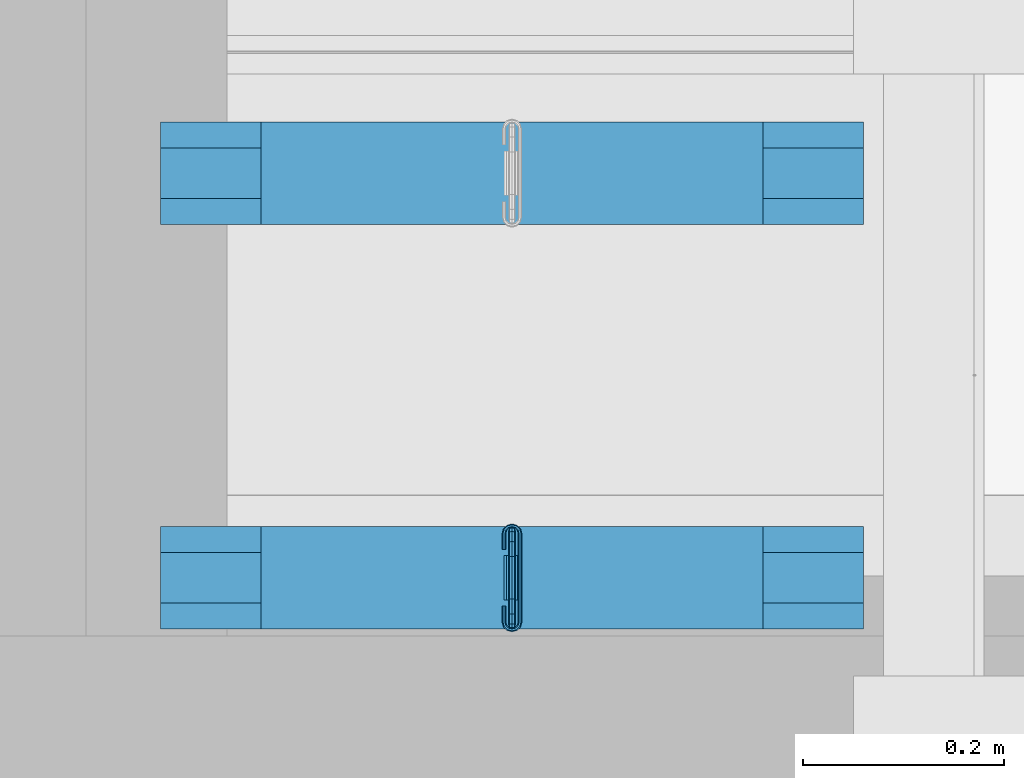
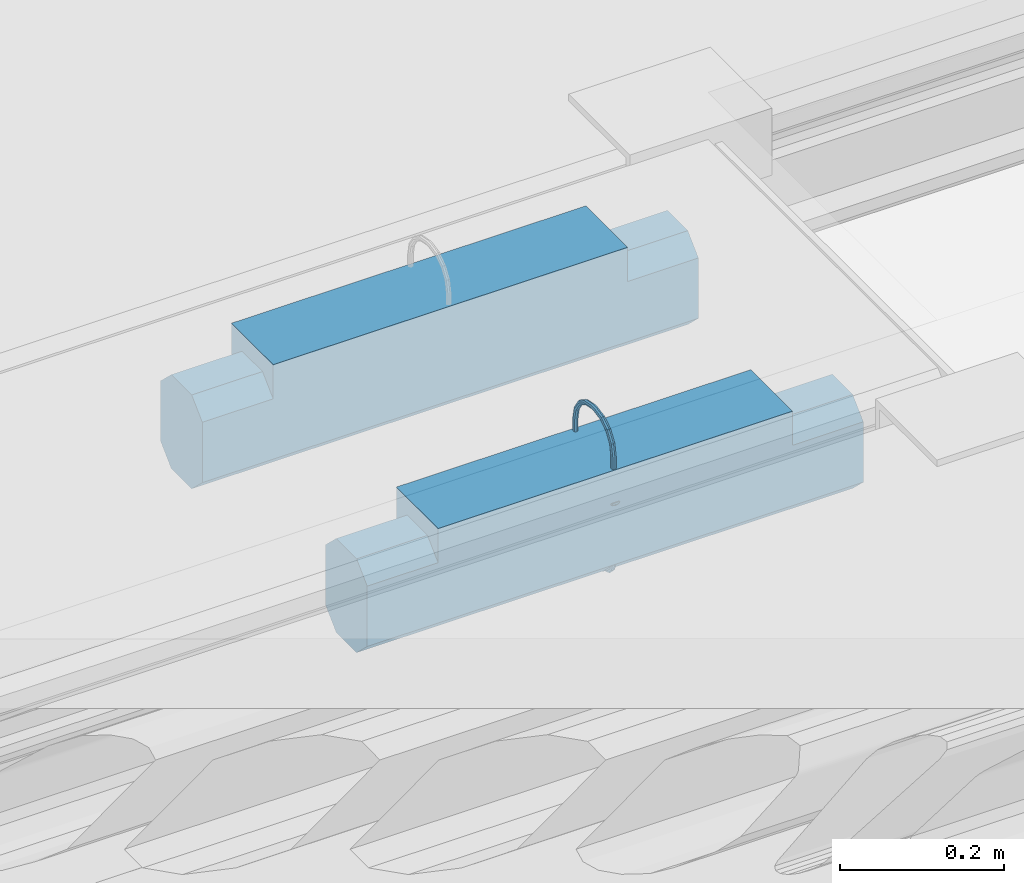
# One storey, part 178 of 230: 3 beams.
"""IFC4X3_ADD2 building model written with IfcOpenShell, lengths in millimetres."""

from ifc_helpers import new_model, si_unit, direction, origin_with_axes, place, context, subcontext, project, spatial, triangles, polygons, element, save


model = new_model("IFC4X3_ADD2")

# Units and contexts
model_context = context("Model", 3, precision=1e-05, world=origin_with_axes(), true_north=direction((0.0, 1.0)))
body_context = subcontext(model_context, "Body", "Model", "MODEL_VIEW")
ifc_project = project(units=[si_unit("LENGTHUNIT", "METRE", prefix="MILLI"), si_unit("AREAUNIT", "SQUARE_METRE"), si_unit("VOLUMEUNIT", "CUBIC_METRE"), si_unit("PLANEANGLEUNIT", "RADIAN"), si_unit("TIMEUNIT", "SECOND"), si_unit("MASSUNIT", "GRAM")], contexts=[model_context])

# Site, building, storey
site_placement = place(None, origin_with_axes())
site = spatial("IfcSite", under=ifc_project, at=site_placement, Name="Site", CompositionType="ELEMENT")
building_placement = place(site_placement, origin_with_axes())
building = spatial("IfcBuilding", under=site, at=building_placement, Name="IFC Building Story")
storey_placement = place(building_placement, origin_with_axes())
storey = spatial("IfcBuildingStorey", under=building, at=storey_placement, Name="ETAGE 00 (0)", Elevation=0.0)

# Beams
beam_1_placement = place(storey_placement, origin_with_axes())
element("IfcBeam", 1, at=beam_1_placement, inside=storey, Name="ES44", ObjectType="500*102", context=body_context, shape_type="Tessellation", body=[
    polygons([(42116.18900000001, 509.0000185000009, 4199.9999879), (42116.18900000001, 407.000018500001, 4199.9999879), (42616.18900000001, 407.000018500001, 4199.9999879), (42616.18900000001, 509.0000185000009, 4199.9999879), (42116.18900000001, 509.0000185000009, 4148.9999909), (42116.18900000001, 483.000018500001, 4173.9999909), (42116.18900000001, 433.000018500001, 4173.9999909), (42116.18900000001, 407.000018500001, 4148.9999909), (42016.18900000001, 407.000018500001, 4148.9999909), (42016.18900000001, 407.000018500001, 4058.999990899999), (42716.18900000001, 407.000018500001, 4058.999990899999), (42716.18900000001, 407.000018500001, 4148.9999909), (42616.18900000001, 407.000018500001, 4148.9999909), (42616.18900000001, 433.000018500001, 4173.9999909), (42616.18900000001, 483.0000185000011, 4173.9999909), (42616.18900000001, 509.0000185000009, 4148.9999909), (42716.18900000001, 509.0000185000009, 4148.9999909), (42716.18900000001, 509.0000185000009, 4058.999990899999), (42016.18900000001, 509.0000185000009, 4058.999990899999), (42016.18900000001, 509.0000185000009, 4148.9999909), (42016.18900000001, 483.000018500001, 4033.9999909), (42016.18900000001, 433.000018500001, 4033.9999909), (42016.18900000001, 433.000018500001, 4173.9999909), (42016.18900000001, 483.000018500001, 4173.9999909), (42716.18900000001, 483.000018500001, 4033.9999909), (42716.18900000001, 483.000018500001, 4173.9999909), (42716.18900000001, 433.000018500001, 4173.9999909), (42716.18900000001, 433.000018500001, 4033.9999909)], [[[1, 2, 3, 4]], [[7, 8, 2]], [[2, 1, 6]], [[2, 6, 7]], [[1, 5, 6]], [[8, 9, 10]], [[13, 3, 2]], [[8, 10, 11]], [[8, 11, 13]], [[13, 2, 8]], [[11, 12, 13]], [[15, 16, 4]], [[4, 3, 14]], [[4, 14, 15]], [[3, 13, 14]], [[16, 17, 18]], [[5, 1, 4]], [[16, 18, 19]], [[16, 19, 5]], [[5, 4, 16]], [[19, 20, 5]], [[21, 22, 10]], [[21, 10, 9]], [[21, 9, 23]], [[21, 23, 24]], [[21, 24, 20]], [[21, 20, 19]], [[25, 18, 17]], [[25, 17, 26]], [[25, 26, 27]], [[25, 27, 12]], [[25, 12, 11]], [[25, 11, 28]], [[22, 21, 25, 28]], [[10, 22, 28, 11]], [[23, 9, 8, 7]], [[24, 23, 7, 6]], [[20, 24, 6, 5]], [[21, 19, 18, 25]], [[26, 17, 16, 15]], [[27, 26, 15, 14]], [[12, 27, 14, 13]]]),
])
beam_2_placement = place(storey_placement, origin_with_axes())
element("IfcBeam", 2, at=beam_2_placement, inside=storey, Name="LU2", ObjectType="D7", context=body_context, shape_type="Tessellation", body=[
    triangles([(42368.66502685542, 483.5000298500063, 4036.025157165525), (42368.66502685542, 480.0000254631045, 4036.025157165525), (42366.19075927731, 483.5000298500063, 4034.999929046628), (42366.19075927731, 480.0000254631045, 4034.999929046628), (42369.6882202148, 483.5000298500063, 4038.500006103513), (42369.6882202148, 480.0000254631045, 4038.500006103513), (42368.66502685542, 480.0000254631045, 4040.974855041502), (42368.66502685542, 483.5000298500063, 4040.974855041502), (42366.19075927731, 480.0000254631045, 4042.000083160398), (42366.19075927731, 483.5000298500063, 4042.000083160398), (42363.71184082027, 480.0000254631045, 4040.974855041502), (42363.71184082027, 483.5000298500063, 4040.974855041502), (42362.6886474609, 480.0000254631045, 4038.500006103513), (42362.6886474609, 483.5000298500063, 4038.500006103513), (42363.71184082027, 483.5000298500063, 4036.025157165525), (42363.71184082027, 480.0000254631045, 4036.025157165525), (42366.19075927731, 495.7500088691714, 4038.282286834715), (42363.71184082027, 495.2374674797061, 4039.170023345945), (42366.19075927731, 504.71763010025, 4047.250053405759), (42363.71184082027, 503.8298572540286, 4047.762522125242), (42368.66502685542, 503.8298572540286, 4047.762522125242), (42368.66502685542, 495.2374674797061, 4039.170023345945), (42369.6882202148, 501.6865651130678, 4048.999946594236), (42369.6882202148, 494.0000066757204, 4041.313497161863), (42368.66502685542, 492.7625822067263, 4043.456680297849), (42368.66502685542, 499.5432366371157, 4050.237371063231), (42366.19075927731, 492.2500044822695, 4044.34441680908), (42366.19075927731, 498.6554637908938, 4050.750130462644), (42363.71184082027, 499.5432366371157, 4050.237371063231), (42363.71184082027, 492.7625822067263, 4043.456680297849), (42362.6886474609, 501.6865651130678, 4048.999946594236), (42362.6886474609, 494.0000066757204, 4041.313497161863), (42363.71184082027, 506.974905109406, 4059.499887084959), (42362.6886474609, 504.500019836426, 4059.499887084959), (42366.19075927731, 508.000024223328, 4059.499887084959), (42368.66502685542, 506.974905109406, 4059.499887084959), (42369.6882202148, 504.500019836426, 4059.499887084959), (42368.66502685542, 502.0251345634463, 4059.499887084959), (42366.19075927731, 501.0000154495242, 4059.499887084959), (42363.71184082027, 502.0251345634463, 4059.499887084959), (42363.71184082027, 502.0251345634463, 4218.50006561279), (42362.6886474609, 504.500019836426, 4218.50006561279), (42363.71184082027, 498.9403664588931, 4234.008421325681), (42362.6886474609, 501.2268548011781, 4234.955456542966), (42363.71184082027, 490.1556192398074, 4247.155583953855), (42362.6886474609, 491.9056214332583, 4248.905477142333), (42363.71184082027, 493.6556236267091, 4250.65566101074), (42363.71184082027, 503.5133068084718, 4235.902491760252), (42366.19075927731, 494.3804703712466, 4251.38032608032), (42366.19075927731, 504.46041469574, 4236.294909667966), (42368.66502685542, 493.6556236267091, 4250.65566101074), (42368.66502685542, 503.5133068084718, 4235.902491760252), (42369.6882202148, 491.9056214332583, 4248.905477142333), (42369.6882202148, 501.2268548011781, 4234.955456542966), (42368.66502685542, 498.9403664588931, 4234.008421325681), (42368.66502685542, 490.1556192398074, 4247.155583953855), (42366.19075927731, 497.993258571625, 4233.616003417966), (42366.19075927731, 489.4307361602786, 4246.430628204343), (42366.19075927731, 476.6160023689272, 4254.993186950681), (42363.71184082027, 477.0083112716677, 4255.940222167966), (42362.6886474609, 477.9554191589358, 4258.226710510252), (42363.71184082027, 478.9024907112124, 4260.513198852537), (42366.19075927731, 479.2947996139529, 4261.460524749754), (42368.66502685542, 478.9024907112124, 4260.513198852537), (42369.6882202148, 477.9554191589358, 4258.226710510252), (42368.66502685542, 477.0083112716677, 4255.940222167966), (42368.66502685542, 461.50002822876, 4259.025208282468), (42366.19075927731, 461.50002822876, 4257.999980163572), (42363.71184082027, 461.50002822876, 4259.025208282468), (42362.6886474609, 461.50002822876, 4261.500057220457), (42363.71184082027, 461.50002822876, 4263.974906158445), (42366.19075927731, 461.50002822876, 4265.000134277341), (42368.66502685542, 461.50002822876, 4263.974906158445), (42369.6882202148, 461.50002822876, 4261.500057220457), (42369.6882202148, 454.5000194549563, 4261.500057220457), (42368.66502685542, 454.5000194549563, 4259.025208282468), (42369.6882202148, 438.0446285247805, 4258.226710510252), (42368.66502685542, 438.9917364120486, 4255.940222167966), (42369.6882202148, 424.094426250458, 4248.905477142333), (42368.66502685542, 425.8444284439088, 4247.155583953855), (42366.19075927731, 439.3840089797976, 4254.993186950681), (42366.19075927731, 426.5693115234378, 4246.430628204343), (42363.71184082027, 425.8444284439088, 4247.155583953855), (42363.71184082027, 438.9917364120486, 4255.940222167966), (42362.6886474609, 424.094426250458, 4248.905477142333), (42362.6886474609, 438.0446285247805, 4258.226710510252), (42363.71184082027, 422.344424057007, 4250.65566101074), (42363.71184082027, 437.0975206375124, 4260.513198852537), (42366.19075927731, 421.6195409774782, 4251.38032608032), (42366.19075927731, 436.7052480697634, 4261.460524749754), (42368.66502685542, 422.344424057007, 4250.65566101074), (42368.66502685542, 437.0975206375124, 4260.513198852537), (42369.6882202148, 414.7731928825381, 4234.955456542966), (42368.66502685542, 412.486704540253, 4235.902491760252), (42368.66502685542, 417.0596812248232, 4234.008421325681), (42366.19075927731, 418.0067891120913, 4233.616003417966), (42363.71184082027, 417.0596812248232, 4234.008421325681), (42362.6886474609, 414.7731928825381, 4234.955456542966), (42363.71184082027, 412.486704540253, 4235.902491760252), (42366.19075927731, 411.5396329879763, 4236.294909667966), (42368.66502685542, 409.0251425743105, 4218.50006561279), (42366.19075927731, 408.0000234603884, 4218.50006561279), (42369.6882202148, 411.5000278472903, 4218.50006561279), (42368.66502685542, 413.9748767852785, 4218.50006561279), (42366.19075927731, 415.0000322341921, 4218.50006561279), (42363.71184082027, 413.9748767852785, 4218.50006561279), (42362.6886474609, 411.5000278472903, 4218.50006561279), (42363.71184082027, 409.0251425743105, 4218.50006561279), (42366.19075927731, 408.0000234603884, 4059.499887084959), (42363.71184082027, 409.0251425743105, 4059.499887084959), (42366.19075927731, 411.2823812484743, 4047.250053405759), (42363.71184082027, 412.1701904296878, 4047.762522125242), (42366.19075927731, 420.2500024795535, 4038.282286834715), (42363.71184082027, 420.7625802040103, 4039.170023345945), (42368.66502685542, 420.7625802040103, 4039.170023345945), (42368.66502685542, 412.1701904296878, 4047.762522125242), (42369.6882202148, 422.0000046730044, 4041.313497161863), (42369.6882202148, 414.3134825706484, 4048.999946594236), (42368.66502685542, 416.4567747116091, 4050.237371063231), (42368.66502685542, 423.2374654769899, 4043.456680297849), (42366.19075927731, 417.3445838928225, 4050.750130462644), (42366.19075927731, 423.7500068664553, 4044.34441680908), (42363.71184082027, 423.2374654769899, 4043.456680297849), (42363.71184082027, 416.4567747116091, 4050.237371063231), (42362.6886474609, 422.0000046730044, 4041.313497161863), (42362.6886474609, 414.3134825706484, 4048.999946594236), (42363.71184082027, 432.50001783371, 4036.025157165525), (42362.6886474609, 432.50001783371, 4038.500006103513), (42366.19075927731, 432.50001783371, 4034.999929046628), (42368.66502685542, 432.50001783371, 4036.025157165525), (42369.6882202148, 432.50001783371, 4038.500006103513), (42368.66502685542, 432.50001783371, 4040.974855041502), (42366.19075927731, 432.50001783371, 4042.000083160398), (42363.71184082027, 432.50001783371, 4040.974855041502), (42363.71184082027, 436.0000222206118, 4040.974855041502), (42362.6886474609, 436.0000222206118, 4038.500006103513), (42366.19075927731, 436.0000222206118, 4042.000083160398), (42368.66502685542, 436.0000222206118, 4040.974855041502), (42369.6882202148, 436.0000222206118, 4038.500006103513), (42368.66502685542, 436.0000222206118, 4036.025157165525), (42366.19075927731, 436.0000222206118, 4034.999929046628), (42363.71184082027, 436.0000222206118, 4036.025157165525), (42374.19027099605, 436.0000222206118, 4038.500006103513), (42366.19075927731, 436.0000222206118, 4046.500099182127), (42360.53063964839, 436.0000222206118, 4044.156928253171), (42358.19124755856, 436.0000222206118, 4038.500006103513), (42371.84622802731, 436.0000222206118, 4044.156928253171), (42360.53063964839, 436.0000222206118, 4032.843083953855), (42366.19075927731, 436.0000222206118, 4030.4999130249), (42371.84622802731, 436.0000222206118, 4032.843083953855), (42371.84622802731, 480.0000254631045, 4032.843083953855), (42366.19075927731, 480.0000254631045, 4030.4999130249), (42374.19027099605, 480.0000254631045, 4038.500006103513), (42371.84622802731, 480.0000254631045, 4044.156928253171), (42366.19075927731, 480.0000254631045, 4046.500099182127), (42360.53063964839, 480.0000254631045, 4044.156928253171), (42358.19124755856, 480.0000254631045, 4038.500006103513), (42360.53063964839, 480.0000254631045, 4032.843083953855), (42362.6886474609, 411.5000278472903, 4059.499887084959), (42363.71184082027, 413.9748767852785, 4059.499887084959), (42366.19075927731, 415.0000322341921, 4059.499887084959), (42368.66502685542, 413.9748767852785, 4059.499887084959), (42369.6882202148, 411.5000278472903, 4059.499887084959), (42368.66502685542, 409.0251425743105, 4059.499887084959), (42368.66502685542, 454.5000194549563, 4263.974906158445), (42366.19075927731, 454.5000194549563, 4265.000134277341), (42363.71184082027, 454.5000194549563, 4263.974906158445), (42362.6886474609, 454.5000194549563, 4261.500057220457), (42363.71184082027, 454.5000194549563, 4259.025208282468), (42366.19075927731, 454.5000194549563, 4257.999980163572), (42366.19075927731, 501.0000154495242, 4218.50006561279), (42368.66502685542, 502.0251345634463, 4218.50006561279), (42369.6882202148, 504.500019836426, 4218.50006561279), (42368.66502685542, 506.974905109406, 4218.50006561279), (42366.19075927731, 508.000024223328, 4218.50006561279), (42363.71184082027, 506.974905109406, 4218.50006561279), (42360.08880615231, 502.0600161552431, 4149.999886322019), (42360.08880615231, 486.0000226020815, 4149.999886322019), (42359.14002685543, 502.0600161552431, 4148.354637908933), (42359.14002685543, 486.0000226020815, 4148.354637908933), (42360.88410644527, 505.03000202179, 4149.999886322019), (42360.06090087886, 505.505009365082, 4148.354637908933), (42362.58167724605, 508.026948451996, 4148.354637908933), (42363.0607177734, 507.2042152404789, 4149.999886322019), (42362.58167724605, 508.026948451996, 4151.645425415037), (42360.06090087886, 505.505009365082, 4151.645425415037), (42366.02797851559, 508.950002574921, 4151.645425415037), (42366.02797851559, 510.85003194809, 4151.645425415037), (42361.63289794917, 509.6723785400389, 4151.645425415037), (42357.23781738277, 413.9400315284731, 4151.645425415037), (42360.06090087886, 410.4950019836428, 4151.645425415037), (42359.14002685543, 413.9400315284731, 4151.645425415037), (42357.23781738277, 430.0000250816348, 4151.645425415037), (42358.41448974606, 409.5450236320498, 4151.645425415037), (42359.14002685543, 430.0000250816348, 4151.645425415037), (42361.63289794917, 406.327669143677, 4151.645425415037), (42366.02797851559, 407.0500087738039, 4151.645425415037), (42362.58167724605, 407.9730992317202, 4151.645425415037), (42366.02797851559, 405.1500157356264, 4151.645425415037), (42357.23781738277, 502.0600161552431, 4151.645425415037), (42358.41448974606, 506.455024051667, 4151.645425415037), (42357.23781738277, 486.0000226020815, 4151.645425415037), (42359.14002685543, 502.0600161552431, 4151.645425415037), (42359.14002685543, 486.0000226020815, 4151.645425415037), (42369.79519042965, 407.9730992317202, 4151.645425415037), (42370.74396972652, 406.327669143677, 4151.645425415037), (42373.96237792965, 409.5450236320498, 4151.645425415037), (42366.34888916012, 405.1500157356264, 4151.645425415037), (42366.34888916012, 407.0500087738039, 4151.645425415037), (42372.31596679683, 410.4950019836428, 4151.645425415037), (42375.13905029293, 413.9400315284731, 4151.645425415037), (42373.23684082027, 413.9400315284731, 4151.645425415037), (42373.23684082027, 502.0600161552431, 4151.645425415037), (42370.74396972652, 509.6723785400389, 4151.645425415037), (42369.79519042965, 508.026948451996, 4151.645425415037), (42373.96237792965, 506.455024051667, 4151.645425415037), (42366.34888916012, 510.85003194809, 4151.645425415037), (42366.34888916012, 508.950002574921, 4151.645425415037), (42375.13905029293, 502.0600161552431, 4151.645425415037), (42372.31596679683, 505.505009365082, 4151.645425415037), (42357.23781738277, 430.0000250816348, 4148.354637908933), (42359.14002685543, 430.0000250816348, 4148.354637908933), (42360.08880615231, 430.0000250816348, 4149.999886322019), (42356.2890380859, 430.0000250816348, 4149.999886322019), (42360.08880615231, 413.9400315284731, 4149.999886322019), (42359.14002685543, 413.9400315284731, 4148.354637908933), (42361.63289794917, 406.327669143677, 4148.354637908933), (42366.02797851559, 407.0500087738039, 4148.354637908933), (42366.02797851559, 405.1500157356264, 4148.354637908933), (42357.23781738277, 502.0600161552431, 4148.354637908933), (42357.23781738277, 486.0000226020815, 4148.354637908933), (42358.41448974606, 506.455024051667, 4148.354637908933), (42361.63289794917, 509.6723785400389, 4148.354637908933), (42366.02797851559, 508.950002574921, 4148.354637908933), (42366.02797851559, 510.85003194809, 4148.354637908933), (42357.23781738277, 413.9400315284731, 4148.354637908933), (42360.06090087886, 410.4950019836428, 4148.354637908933), (42358.41448974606, 409.5450236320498, 4148.354637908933), (42362.58167724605, 407.9730992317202, 4148.354637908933), (42369.79519042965, 508.026948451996, 4148.354637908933), (42370.74396972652, 509.6723785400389, 4148.354637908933), (42373.96237792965, 506.455024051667, 4148.354637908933), (42366.34888916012, 510.85003194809, 4148.354637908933), (42366.34888916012, 508.950002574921, 4148.354637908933), (42372.31596679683, 505.505009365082, 4148.354637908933), (42375.13905029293, 502.0600161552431, 4148.354637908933), (42373.23684082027, 502.0600161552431, 4148.354637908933), (42373.23684082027, 413.9400315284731, 4148.354637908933), (42370.74396972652, 406.327669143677, 4148.354637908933), (42369.79519042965, 407.9730992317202, 4148.354637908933), (42373.96237792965, 409.5450236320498, 4148.354637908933), (42366.34888916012, 405.1500157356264, 4148.354637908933), (42366.34888916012, 407.0500087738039, 4148.354637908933), (42375.13905029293, 413.9400315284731, 4148.354637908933), (42372.31596679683, 410.4950019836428, 4148.354637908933), (42356.2890380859, 413.9400315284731, 4149.999886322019), (42357.59593505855, 409.0700162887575, 4149.999886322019), (42361.15850830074, 405.5049359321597, 4149.999886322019), (42366.02797851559, 404.200001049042, 4149.999886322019), (42366.34888916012, 404.200001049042, 4149.999886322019), (42371.21835937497, 405.5049359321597, 4149.999886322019), (42374.78558349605, 409.0700162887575, 4149.999886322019), (42376.08782958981, 413.9400315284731, 4149.999886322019), (42376.08782958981, 502.0600161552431, 4149.999886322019), (42374.78558349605, 506.930031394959, 4149.999886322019), (42371.21835937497, 510.495111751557, 4149.999886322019), (42366.34888916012, 511.800010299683, 4149.999886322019), (42366.02797851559, 511.800010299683, 4149.999886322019), (42361.15850830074, 510.495111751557, 4149.999886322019), (42357.59593505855, 506.930031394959, 4149.999886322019), (42356.2890380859, 502.0600161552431, 4149.999886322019), (42356.2890380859, 486.0000226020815, 4149.999886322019), (42366.02797851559, 508.000024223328, 4149.999886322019), (42366.34888916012, 508.000024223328, 4149.999886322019), (42369.32080078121, 507.2042152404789, 4149.999886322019), (42371.49276123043, 505.03000202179, 4149.999886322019), (42372.2880615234, 502.0600161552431, 4149.999886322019), (42372.2880615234, 413.9400315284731, 4149.999886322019), (42371.49276123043, 410.970009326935, 4149.999886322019), (42369.32080078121, 408.7958324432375, 4149.999886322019), (42366.34888916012, 408.0000234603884, 4149.999886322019), (42366.02797851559, 408.0000234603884, 4149.999886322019), (42363.0607177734, 408.7958324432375, 4149.999886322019), (42360.88410644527, 410.970009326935, 4149.999886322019)], [[1, 2, 3], [4, 3, 2], [5, 6, 1], [2, 1, 6], [6, 5, 7], [8, 7, 5], [7, 8, 9], [10, 9, 8], [9, 10, 11], [12, 11, 10], [11, 12, 13], [14, 13, 12], [15, 16, 14], [13, 14, 16], [3, 4, 15], [16, 15, 4], [17, 3, 18], [15, 18, 3], [19, 17, 20], [18, 20, 17], [21, 22, 17], [17, 19, 21], [23, 24, 22], [22, 21, 23], [24, 23, 25], [26, 25, 23], [25, 26, 27], [28, 27, 26], [27, 28, 29], [29, 30, 27], [30, 29, 31], [31, 32, 30], [20, 18, 31], [32, 31, 18], [33, 20, 34], [31, 34, 20], [35, 19, 33], [20, 33, 19], [36, 21, 19], [19, 35, 36], [37, 23, 21], [21, 36, 37], [23, 37, 26], [38, 26, 37], [26, 38, 28], [39, 28, 38], [28, 39, 40], [40, 29, 28], [29, 40, 34], [34, 31, 29], [40, 41, 42], [42, 34, 40], [41, 43, 44], [44, 42, 41], [43, 45, 46], [46, 44, 43], [47, 48, 46], [44, 46, 48], [49, 50, 47], [48, 47, 50], [51, 52, 50], [50, 49, 51], [53, 54, 52], [52, 51, 53], [54, 53, 55], [56, 55, 53], [55, 56, 57], [58, 57, 56], [57, 58, 45], [45, 43, 57], [58, 59, 60], [60, 45, 58], [45, 60, 61], [61, 46, 45], [62, 47, 61], [46, 61, 47], [63, 49, 62], [47, 62, 49], [64, 51, 49], [49, 63, 64], [65, 53, 51], [51, 64, 65], [53, 65, 56], [66, 56, 65], [56, 66, 58], [59, 58, 66], [66, 67, 59], [68, 59, 67], [59, 68, 69], [69, 60, 59], [60, 69, 70], [70, 61, 60], [71, 62, 70], [61, 70, 62], [72, 63, 71], [62, 71, 63], [73, 64, 63], [63, 72, 73], [74, 65, 64], [64, 73, 74], [65, 74, 66], [67, 66, 74], [74, 75, 67], [76, 67, 75], [75, 77, 76], [78, 76, 77], [77, 79, 78], [80, 78, 79], [78, 80, 81], [82, 81, 80], [81, 82, 83], [83, 84, 81], [84, 83, 85], [85, 86, 84], [87, 88, 85], [86, 85, 88], [89, 90, 87], [88, 87, 90], [91, 92, 90], [90, 89, 91], [79, 77, 92], [92, 91, 79], [93, 79, 91], [91, 94, 93], [79, 93, 80], [95, 80, 93], [80, 95, 82], [96, 82, 95], [82, 96, 97], [97, 83, 82], [83, 97, 98], [98, 85, 83], [99, 87, 98], [85, 98, 87], [100, 89, 99], [87, 99, 89], [94, 91, 89], [89, 100, 94], [101, 94, 100], [100, 102, 101], [103, 93, 94], [94, 101, 103], [93, 103, 95], [104, 95, 103], [95, 104, 96], [105, 96, 104], [96, 105, 106], [106, 97, 96], [97, 106, 107], [107, 98, 97], [108, 99, 107], [98, 107, 99], [102, 100, 108], [99, 108, 100], [109, 102, 110], [108, 110, 102], [111, 109, 112], [110, 112, 109], [113, 111, 114], [112, 114, 111], [115, 116, 111], [111, 113, 115], [117, 118, 116], [116, 115, 117], [118, 117, 119], [120, 119, 117], [119, 120, 121], [122, 121, 120], [121, 122, 123], [123, 124, 121], [124, 123, 125], [125, 126, 124], [114, 112, 125], [126, 125, 112], [127, 114, 128], [125, 128, 114], [129, 113, 127], [114, 127, 113], [130, 115, 113], [113, 129, 130], [131, 117, 115], [115, 130, 131], [117, 131, 120], [132, 120, 131], [120, 132, 122], [133, 122, 132], [122, 133, 134], [134, 123, 122], [123, 134, 128], [128, 125, 123], [134, 135, 136], [136, 128, 134], [133, 137, 134], [135, 134, 137], [132, 138, 137], [137, 133, 132], [131, 139, 132], [138, 132, 139], [139, 131, 130], [130, 140, 139], [140, 130, 141], [129, 141, 130], [141, 129, 127], [127, 142, 141], [142, 127, 136], [128, 136, 127], [138, 139, 143], [135, 137, 144], [144, 145, 135], [146, 136, 135], [146, 135, 145], [147, 137, 138], [137, 147, 144], [138, 143, 147], [148, 136, 146], [142, 149, 141], [142, 136, 148], [148, 149, 142], [150, 143, 139], [139, 140, 150], [141, 150, 140], [150, 141, 149], [151, 150, 152], [149, 152, 150], [153, 143, 151], [150, 151, 143], [143, 153, 147], [154, 147, 153], [147, 154, 144], [155, 144, 154], [144, 155, 145], [156, 145, 155], [145, 156, 146], [157, 146, 156], [158, 148, 157], [146, 157, 148], [152, 149, 158], [148, 158, 149], [11, 13, 157], [7, 9, 155], [155, 154, 7], [153, 6, 7], [153, 7, 154], [156, 9, 11], [9, 156, 155], [11, 157, 156], [151, 6, 153], [2, 152, 4], [2, 6, 151], [151, 152, 2], [158, 157, 13], [13, 16, 158], [4, 158, 16], [158, 4, 152], [112, 110, 126], [159, 126, 110], [160, 124, 126], [126, 159, 160], [161, 121, 124], [124, 160, 161], [162, 119, 161], [121, 161, 119], [163, 118, 162], [119, 162, 118], [118, 163, 164], [164, 116, 118], [116, 164, 109], [109, 111, 116], [164, 101, 102], [102, 109, 164], [163, 103, 164], [101, 164, 103], [103, 163, 104], [162, 104, 163], [104, 162, 105], [161, 105, 162], [105, 161, 160], [160, 106, 105], [106, 160, 159], [159, 107, 106], [110, 108, 107], [107, 159, 110], [77, 75, 165], [165, 92, 77], [92, 165, 166], [166, 90, 92], [90, 166, 88], [167, 88, 166], [88, 167, 86], [168, 86, 167], [169, 84, 86], [86, 168, 169], [170, 81, 84], [84, 169, 170], [76, 78, 170], [81, 170, 78], [67, 76, 68], [170, 68, 76], [68, 170, 169], [169, 69, 68], [69, 169, 168], [168, 70, 69], [167, 71, 70], [70, 168, 167], [166, 72, 71], [71, 167, 166], [165, 73, 166], [72, 166, 73], [75, 74, 165], [73, 165, 74], [171, 57, 43], [43, 41, 171], [172, 55, 171], [57, 171, 55], [173, 54, 172], [55, 172, 54], [54, 173, 174], [174, 52, 54], [52, 174, 175], [175, 50, 52], [50, 175, 48], [176, 48, 175], [48, 176, 44], [42, 44, 176], [176, 33, 34], [34, 42, 176], [175, 35, 176], [33, 176, 35], [174, 36, 35], [35, 175, 174], [173, 37, 174], [36, 174, 37], [37, 173, 38], [172, 38, 173], [38, 172, 39], [171, 39, 172], [39, 171, 41], [41, 40, 39], [18, 15, 32], [14, 32, 15], [12, 30, 32], [32, 14, 12], [10, 27, 30], [30, 12, 10], [8, 25, 10], [27, 10, 25], [5, 24, 8], [25, 8, 24], [24, 5, 1], [1, 22, 24], [22, 1, 3], [3, 17, 22], [177, 178, 179], [180, 179, 178], [181, 177, 179], [179, 182, 181], [183, 184, 181], [181, 182, 183], [184, 185, 181], [186, 181, 185], [187, 188, 189], [190, 191, 192], [190, 192, 193], [190, 194, 191], [195, 193, 192], [196, 197, 198], [198, 191, 194], [199, 197, 196], [196, 198, 194], [200, 186, 201], [202, 203, 200], [204, 203, 202], [200, 203, 186], [185, 189, 201], [201, 186, 185], [189, 185, 187], [205, 206, 207], [197, 199, 208], [208, 209, 197], [209, 206, 205], [206, 209, 208], [210, 207, 211], [207, 210, 205], [212, 211, 213], [211, 212, 210], [214, 215, 216], [217, 188, 187], [187, 218, 217], [218, 215, 214], [214, 217, 218], [213, 219, 220], [219, 213, 211], [220, 216, 215], [216, 220, 219], [195, 221, 193], [222, 195, 223], [193, 221, 224], [195, 222, 221], [223, 225, 226], [226, 222, 223], [227, 228, 229], [230, 182, 179], [230, 179, 231], [230, 232, 182], [180, 231, 179], [233, 234, 183], [183, 182, 232], [235, 234, 233], [233, 183, 232], [236, 237, 238], [221, 226, 236], [222, 226, 221], [236, 226, 237], [239, 227, 238], [238, 237, 239], [227, 239, 228], [240, 241, 242], [243, 234, 235], [243, 244, 234], [244, 243, 241], [240, 244, 241], [245, 242, 246], [242, 245, 240], [247, 246, 248], [246, 247, 245], [249, 250, 251], [252, 229, 228], [228, 253, 252], [253, 250, 249], [249, 252, 253], [248, 254, 255], [254, 248, 246], [255, 251, 250], [251, 255, 254], [221, 236, 256], [256, 224, 221], [190, 193, 256], [224, 256, 193], [257, 194, 256], [190, 256, 194], [238, 257, 256], [256, 236, 238], [227, 258, 238], [257, 238, 258], [258, 196, 194], [194, 257, 258], [259, 199, 196], [196, 258, 259], [260, 208, 259], [199, 259, 208], [261, 206, 260], [208, 260, 206], [249, 261, 260], [260, 252, 249], [252, 260, 259], [259, 229, 252], [229, 259, 227], [258, 227, 259], [251, 262, 261], [261, 249, 251], [262, 207, 261], [206, 261, 207], [263, 211, 207], [207, 262, 263], [263, 264, 211], [219, 211, 264], [219, 264, 216], [265, 216, 264], [264, 246, 242], [242, 265, 264], [264, 263, 254], [254, 246, 264], [254, 263, 251], [262, 251, 263], [265, 242, 266], [241, 266, 242], [216, 265, 266], [266, 214, 216], [214, 266, 267], [267, 217, 214], [217, 267, 268], [268, 188, 217], [188, 268, 189], [269, 189, 268], [268, 235, 233], [233, 269, 268], [267, 243, 268], [235, 268, 243], [266, 241, 267], [243, 267, 241], [269, 233, 232], [232, 270, 269], [189, 269, 201], [270, 201, 269], [201, 270, 271], [271, 200, 201], [202, 200, 272], [271, 272, 200], [202, 180, 204], [231, 202, 272], [204, 180, 178], [202, 231, 180], [230, 231, 271], [272, 271, 231], [270, 232, 271], [230, 271, 232], [178, 177, 203], [203, 204, 178], [177, 181, 203], [186, 203, 181], [234, 273, 184], [184, 183, 234], [273, 187, 184], [185, 184, 187], [274, 218, 273], [187, 273, 218], [275, 215, 218], [218, 274, 275], [276, 220, 215], [215, 275, 276], [213, 220, 276], [276, 277, 213], [212, 213, 277], [277, 278, 212], [210, 212, 279], [278, 279, 212], [210, 279, 205], [280, 205, 279], [205, 280, 209], [281, 209, 280], [209, 281, 197], [282, 197, 281], [197, 282, 283], [283, 198, 197], [198, 283, 284], [284, 191, 198], [284, 225, 192], [192, 191, 284], [225, 223, 192], [195, 192, 223], [225, 284, 226], [237, 226, 284], [283, 239, 284], [237, 284, 239], [282, 228, 283], [239, 283, 228], [281, 253, 228], [228, 282, 281], [280, 250, 253], [253, 281, 280], [279, 255, 250], [250, 280, 279], [248, 255, 279], [279, 278, 248], [247, 248, 277], [278, 277, 248], [245, 247, 276], [277, 276, 247], [245, 276, 240], [275, 240, 276], [240, 275, 244], [274, 244, 275], [244, 274, 273], [273, 234, 244]]),
])
beam_3_placement = place(storey_placement, origin_with_axes())
element("IfcBeam", 3, at=beam_3_placement, inside=storey, Name="ES44", ObjectType="500*102", context=body_context, shape_type="Tessellation", body=[
    polygons([(42116.18900000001, 912.000018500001, 4199.9999879), (42116.18900000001, 810.000018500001, 4199.9999879), (42616.18900000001, 810.000018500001, 4199.9999879), (42616.18900000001, 912.000018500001, 4199.9999879), (42116.18900000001, 912.000018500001, 4148.999990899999), (42116.18900000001, 886.000018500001, 4173.9999909), (42116.18900000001, 836.000018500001, 4173.9999909), (42116.18900000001, 810.000018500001, 4148.9999909), (42016.18900000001, 810.000018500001, 4148.9999909), (42016.18900000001, 810.000018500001, 4058.999990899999), (42716.18900000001, 810.000018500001, 4058.999990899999), (42716.18900000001, 810.000018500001, 4148.9999909), (42616.18900000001, 810.000018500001, 4148.9999909), (42616.18900000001, 836.000018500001, 4173.9999909), (42616.18900000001, 886.0000185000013, 4173.9999909), (42616.18900000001, 912.000018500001, 4148.999990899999), (42716.18900000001, 912.000018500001, 4148.9999909), (42716.18900000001, 912.000018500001, 4058.999990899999), (42016.18900000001, 912.000018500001, 4058.999990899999), (42016.18900000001, 912.000018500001, 4148.9999909), (42016.18900000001, 886.0000185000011, 4033.9999909), (42016.18900000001, 836.000018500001, 4033.9999909), (42016.18900000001, 836.000018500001, 4173.9999909), (42016.18900000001, 886.0000185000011, 4173.9999909), (42716.18900000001, 886.0000185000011, 4033.9999909), (42716.18900000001, 886.0000185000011, 4173.9999909), (42716.18900000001, 836.000018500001, 4173.9999909), (42716.18900000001, 836.000018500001, 4033.9999909)], [[[1, 2, 3, 4]], [[7, 8, 2]], [[2, 1, 6]], [[2, 6, 7]], [[1, 5, 6]], [[8, 9, 10]], [[13, 3, 2]], [[8, 10, 11]], [[8, 11, 13]], [[13, 2, 8]], [[11, 12, 13]], [[15, 16, 4]], [[4, 3, 14]], [[4, 14, 15]], [[3, 13, 14]], [[16, 17, 18]], [[5, 1, 4]], [[16, 18, 19]], [[16, 19, 5]], [[5, 4, 16]], [[19, 20, 5]], [[21, 22, 10]], [[21, 10, 9]], [[21, 9, 23]], [[21, 23, 24]], [[21, 24, 20]], [[21, 20, 19]], [[25, 18, 17]], [[25, 17, 26]], [[25, 26, 27]], [[25, 27, 12]], [[25, 12, 11]], [[25, 11, 28]], [[22, 21, 25, 28]], [[10, 22, 28, 11]], [[23, 9, 8, 7]], [[24, 23, 7, 6]], [[20, 24, 6, 5]], [[21, 19, 18, 25]], [[12, 27, 14, 13]], [[27, 26, 15, 14]], [[26, 17, 16, 15]]]),
])

save(model, "model.ifc")
